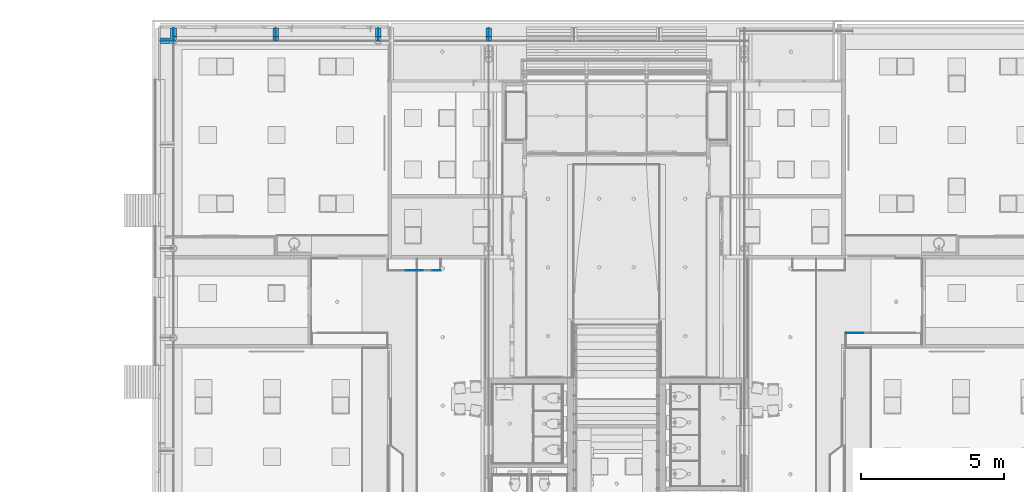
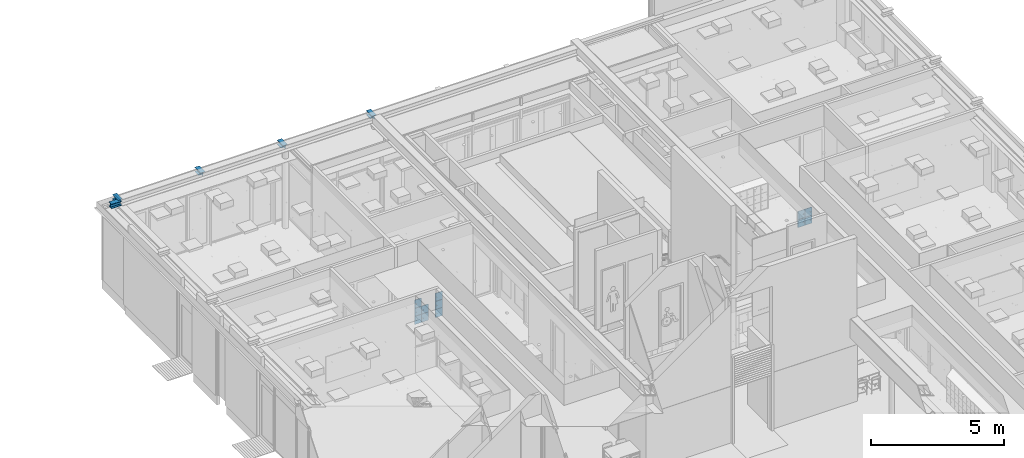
# One storey, part 145 of 347: 27 building element parts, 7 elements without a shape of their own.
"""IFC2X3 building model written with IfcOpenShell, lengths in millimetres."""

from ifc_helpers import new_model, entity, si_unit, converted_unit, derived_unit, money_unit, direction, frame, origin_with_axes, place, context, subcontext, project, spatial, faceted_brep, material, type_object, element, aggregate, save


model = new_model("IFC2X3")

# Units and contexts
model_context = context("Model", 3, precision=0.01, world=origin_with_axes(), true_north=direction((0.0, 1.0)))
plan_context = context("Plan", 3, precision=0.01, world=origin_with_axes(), true_north=direction((0.0, 1.0)))
body_context = subcontext(model_context, "Body", "Model", "MODEL_VIEW")
ifc_project = project(units=[si_unit("LENGTHUNIT", "METRE", prefix="MILLI"), si_unit("AREAUNIT", "SQUARE_METRE"), si_unit("VOLUMEUNIT", "CUBIC_METRE"), converted_unit("PLANEANGLEUNIT", "DEGREE", entity("IfcPlaneAngleMeasure", 0.0174532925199), si_unit("PLANEANGLEUNIT", "RADIAN"), dimensions=[0, 0, 0, 0, 0, 0, 0]), money_unit("EUR"), converted_unit("TIMEUNIT", "Year", entity("IfcTimeMeasure", 31556926.0), si_unit("TIMEUNIT", "SECOND"), dimensions=[0, 0, 1, 0, 0, 0, 0]), si_unit("MASSUNIT", "GRAM", prefix="KILO"), si_unit("THERMODYNAMICTEMPERATUREUNIT", "DEGREE_CELSIUS"), si_unit("LUMINOUSINTENSITYUNIT", "LUMEN"), si_unit("ENERGYUNIT", "JOULE", prefix="MEGA"), derived_unit("THERMALCONDUCTANCEUNIT", [(si_unit("POWERUNIT", "WATT"), 1), (si_unit("LENGTHUNIT", "METRE"), -1), (si_unit("THERMODYNAMICTEMPERATUREUNIT", "KELVIN"), -1)]), derived_unit("SPECIFICHEATCAPACITYUNIT", [(si_unit("ENERGYUNIT", "JOULE"), 1), (si_unit("MASSUNIT", "GRAM", prefix="KILO"), -1), (si_unit("THERMODYNAMICTEMPERATUREUNIT", "KELVIN"), -1)]), derived_unit("MASSDENSITYUNIT", [(si_unit("MASSUNIT", "GRAM", prefix="KILO"), 1), (si_unit("VOLUMEUNIT", "CUBIC_METRE"), -1)])], contexts=[model_context, plan_context])

# Site, building, storey
site_placement = place(None, origin_with_axes())
site = spatial("IfcSite", under=ifc_project, at=site_placement, Name="Site", CompositionType="ELEMENT")
building_placement = place(site_placement, origin_with_axes())
building = spatial("IfcBuilding", under=site, at=building_placement, Name="Naam gebouw", CompositionType="ELEMENT")
storey_placement = place(building_placement, origin_with_axes())
storey = spatial("IfcBuildingStorey", under=building, at=storey_placement, Name="begane grond", CompositionType="ELEMENT", Elevation=0.0)

# Beam, building element parts
beam_type_1 = type_object("IfcBeamType", Name="28 HEB200 200 x 200", PredefinedType="BEAM")
beam_1_placement = place(storey_placement, frame((24575.0, 46586.9999775, 3560.0), z_axis=(0.0, 0.0, 1.0), x_axis=(0.0, 1.0, 0.0)))
beam_1 = element("IfcBeam", 1, at=beam_1_placement, inside=storey, type_object=beam_type_1, Name="28_Balk-x", ObjectType="BEAM")
ifc_material_1 = material(Name="Metaal - Staal C")
building_element_part_1_placement = place(beam_1_placement, origin_with_axes())
building_element_part_1 = element("IfcBuildingElementPart", 2, at=building_element_part_1_placement, material=ifc_material_1, Name="Metaal - Staal C", context=body_context, shape_type="Brep", body=[
    faceted_brep([(-5.49997749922, 0.0, 185.0), (-5.49997749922, 0.0, 200.0), (-100.0, 0.0, 200.0), (-100.0, 0.0, 185.0), (-5.49997898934, 99.9999999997, 200.0), (-5.49997898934, 99.9999999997, 185.0), (100.0, 99.9999999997, 200.0), (100.0, 450.0, 200.0), (-100.0, 450.0, 200.0), (-100.0, 450.0, 185.0), (-4.5, 450.0, 185.0), (-4.5, 99.9999999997, 185.0), (100.0, 99.9999999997, 185.0), (4.5, 99.9999999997, 185.0), (100.0, 450.0, 185.0), (4.5, 450.0, 185.0)], [[[0, 1, 2, 3]], [[4, 1, 0, 5]], [[4, 6, 7, 8, 2, 1]], [[2, 8, 9, 3]], [[5, 0, 3, 9, 10, 11]], [[12, 6, 4, 5, 11, 13]], [[6, 12, 14, 7]], [[10, 9, 8, 7, 14, 15]], [[13, 11, 10, 15]], [[12, 13, 15, 14]]]),
])
building_element_part_2_placement = place(beam_1_placement, origin_with_axes())
building_element_part_2 = element("IfcBuildingElementPart", 3, at=building_element_part_2_placement, material=ifc_material_1, Name="Metaal - Staal C", context=body_context, shape_type="Brep", body=[
    faceted_brep([(4.5, 99.9999999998, 15.0), (100.0, 99.9999999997, 15.0), (100.0, 450.0, 15.0), (4.5, 450.0, 15.0), (100.0, 99.9999999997, 0.0), (-4.5, 99.9999999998, 15.0), (-100.0, 99.9999999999, 15.0), (-100.0, 99.9999999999, 0.0), (100.0, 450.0, 0.0), (-100.0, 450.0, 0.0), (-100.0, 450.0, 15.0), (-4.5, 450.0, 15.0)], [[[0, 1, 2, 3]], [[4, 1, 0, 5, 6, 7]], [[1, 4, 8, 2]], [[9, 10, 11, 3, 2, 8]], [[5, 0, 3, 11]], [[6, 5, 11, 10]], [[7, 6, 10, 9]], [[4, 7, 9, 8]]]),
])
building_element_part_3_placement = place(beam_1_placement, origin_with_axes())
building_element_part_3 = element("IfcBuildingElementPart", 4, at=building_element_part_3_placement, material=ifc_material_1, Name="Metaal - Staal C", context=body_context, shape_type="Brep", body=[
    faceted_brep([(-4.5, 4.50000000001, 185.0), (4.5, 4.5, 185.0), (4.5, 450.0, 185.0), (-4.5, 450.0, 185.0), (4.5, 4.5, 15.0), (-4.5, 4.50000000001, 15.0), (4.5, 450.0, 15.0), (-4.5, 450.0, 15.0)], [[[0, 1, 2, 3]], [[4, 1, 0, 5]], [[1, 4, 6, 2]], [[6, 7, 3, 2]], [[5, 0, 3, 7]], [[4, 5, 7, 6]]]),
])
aggregate(beam_1, [building_element_part_1, building_element_part_2, building_element_part_3])

beam_type_2 = type_object("IfcBeamType", Name="VI Garderobe 05 2412 x 1122", PredefinedType="BEAM")
beam_2_placement = place(storey_placement, frame((50519.0, 36380.5000133, 0.0), z_axis=(0.0, 0.0, 1.0), x_axis=(-1.0, 0.0, 0.0)))
beam_2 = element("IfcBeam", 5, at=beam_2_placement, inside=storey, type_object=beam_type_2, Name="28_Balk-x", ObjectType="BEAM")
ifc_material_2 = material(Name="Hout - Lockers")
building_element_part_4_placement = place(beam_2_placement, origin_with_axes())
building_element_part_4 = element("IfcBuildingElementPart", 6, at=building_element_part_4_placement, material=ifc_material_2, Name="Hout - Lockers", context=body_context, shape_type="Brep", body=[
    faceted_brep([(2109.0, 18.0, 1175.0), (2109.0, 18.0, 802.0), (2109.0, 0.0, 802.0), (2109.0, 0.0, 1175.0), (2412.0, 18.0, 1175.0), (2412.0, 18.0, 802.0), (2187.0, 18.0, 975.0), (2183.5623059, 18.0, 985.580134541), (2174.5623059, 18.0, 992.119017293), (2163.4376941, 18.0, 992.119017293), (2154.4376941, 18.0, 985.580134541), (2151.0, 18.0, 975.0), (2154.4376941, 18.0, 964.419865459), (2163.4376941, 18.0, 957.880982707), (2174.5623059, 18.0, 957.880982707), (2183.5623059, 18.0, 964.419865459), (2412.0, 0.0, 802.0), (2412.0, 0.0, 1175.0), (2187.0, 0.0, 975.0), (2183.5623059, 0.0, 964.419865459), (2174.5623059, 0.0, 957.880982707), (2163.4376941, 0.0, 957.880982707), (2154.4376941, 0.0, 964.419865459), (2151.0, 0.0, 975.0), (2154.4376941, 0.0, 985.580134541), (2163.4376941, 0.0, 992.119017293), (2174.5623059, 0.0, 992.119017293), (2183.5623059, 0.0, 985.580134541)], [[[0, 1, 2, 3]], [[0, 4, 5, 1], [6, 7, 8, 9, 10, 11, 12, 13, 14, 15]], [[1, 5, 16, 2]], [[3, 2, 16, 17], [18, 19, 20, 21, 22, 23, 24, 25, 26, 27]], [[4, 0, 3, 17]], [[5, 4, 17, 16]], [[7, 6, 18, 27]], [[8, 7, 27, 26]], [[9, 8, 26, 25]], [[10, 9, 25, 24]], [[11, 10, 24, 23]], [[12, 11, 23, 22]], [[13, 12, 22, 21]], [[14, 13, 21, 20]], [[15, 14, 20, 19]], [[6, 15, 19, 18]]]),
])
building_element_part_5_placement = place(beam_2_placement, origin_with_axes())
building_element_part_5 = element("IfcBuildingElementPart", 7, at=building_element_part_5_placement, material=ifc_material_2, Name="Hout - Lockers", context=body_context, shape_type="Brep", body=[
    faceted_brep([(1809.0, 18.0, 1175.0), (1809.0, 18.0, 802.0), (1809.0, 0.0, 802.0), (1809.0, 0.0, 1175.0), (2103.0, 18.0, 1175.0), (2103.0, 18.0, 802.0), (1887.0, 18.0, 975.0), (1883.5623059, 18.0, 985.580134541), (1874.5623059, 18.0, 992.119017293), (1863.4376941, 18.0, 992.119017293), (1854.4376941, 18.0, 985.580134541), (1851.0, 18.0, 975.0), (1854.4376941, 18.0, 964.419865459), (1863.4376941, 18.0, 957.880982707), (1874.5623059, 18.0, 957.880982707), (1883.5623059, 18.0, 964.419865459), (2103.0, 0.0, 802.0), (2103.0, 0.0, 1175.0), (1887.0, 0.0, 975.0), (1883.5623059, 0.0, 964.419865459), (1874.5623059, 0.0, 957.880982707), (1863.4376941, 0.0, 957.880982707), (1854.4376941, 0.0, 964.419865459), (1851.0, 0.0, 975.0), (1854.4376941, 0.0, 985.580134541), (1863.4376941, 0.0, 992.119017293), (1874.5623059, 0.0, 992.119017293), (1883.5623059, 0.0, 985.580134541)], [[[0, 1, 2, 3]], [[0, 4, 5, 1], [6, 7, 8, 9, 10, 11, 12, 13, 14, 15]], [[1, 5, 16, 2]], [[3, 2, 16, 17], [18, 19, 20, 21, 22, 23, 24, 25, 26, 27]], [[4, 0, 3, 17]], [[5, 4, 17, 16]], [[7, 6, 18, 27]], [[8, 7, 27, 26]], [[9, 8, 26, 25]], [[10, 9, 25, 24]], [[11, 10, 24, 23]], [[12, 11, 23, 22]], [[13, 12, 22, 21]], [[14, 13, 21, 20]], [[15, 14, 20, 19]], [[6, 15, 19, 18]]]),
])
building_element_part_6_placement = place(beam_2_placement, origin_with_axes())
building_element_part_6 = element("IfcBuildingElementPart", 8, at=building_element_part_6_placement, material=ifc_material_2, Name="Hout - Lockers", context=body_context, shape_type="Brep", body=[
    faceted_brep([(2109.0, 18.0, 796.0), (2109.0, 18.0, 432.0), (2109.0, 0.0, 432.0), (2109.0, 0.0, 796.0), (2412.0, 18.0, 796.0), (2412.0, 18.0, 432.0), (2187.0, 18.0, 596.0), (2183.5623059, 18.0, 606.580134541), (2174.5623059, 18.0, 613.119017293), (2163.4376941, 18.0, 613.119017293), (2154.4376941, 18.0, 606.580134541), (2151.0, 18.0, 596.0), (2154.4376941, 18.0, 585.419865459), (2163.4376941, 18.0, 578.880982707), (2174.5623059, 18.0, 578.880982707), (2183.5623059, 18.0, 585.419865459), (2412.0, 0.0, 432.0), (2412.0, 0.0, 796.0), (2187.0, 0.0, 596.0), (2183.5623059, 0.0, 585.419865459), (2174.5623059, 0.0, 578.880982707), (2163.4376941, 0.0, 578.880982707), (2154.4376941, 0.0, 585.419865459), (2151.0, 0.0, 596.0), (2154.4376941, 0.0, 606.580134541), (2163.4376941, 0.0, 613.119017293), (2174.5623059, 0.0, 613.119017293), (2183.5623059, 0.0, 606.580134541)], [[[0, 1, 2, 3]], [[0, 4, 5, 1], [6, 7, 8, 9, 10, 11, 12, 13, 14, 15]], [[1, 5, 16, 2]], [[3, 2, 16, 17], [18, 19, 20, 21, 22, 23, 24, 25, 26, 27]], [[4, 0, 3, 17]], [[5, 4, 17, 16]], [[7, 6, 18, 27]], [[8, 7, 27, 26]], [[9, 8, 26, 25]], [[10, 9, 25, 24]], [[11, 10, 24, 23]], [[12, 11, 23, 22]], [[13, 12, 22, 21]], [[14, 13, 21, 20]], [[15, 14, 20, 19]], [[6, 15, 19, 18]]]),
])
building_element_part_7_placement = place(beam_2_placement, origin_with_axes())
building_element_part_7 = element("IfcBuildingElementPart", 9, at=building_element_part_7_placement, material=ifc_material_2, Name="Hout - Lockers", context=body_context, shape_type="Brep", body=[
    faceted_brep([(1809.0, 18.0, 796.0), (1809.0, 18.0, 432.0), (1809.0, 0.0, 432.0), (1809.0, 0.0, 796.0), (2103.0, 18.0, 796.0), (2103.0, 18.0, 432.0), (1887.0, 18.0, 596.0), (1883.5623059, 18.0, 606.580134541), (1874.5623059, 18.0, 613.119017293), (1863.4376941, 18.0, 613.119017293), (1854.4376941, 18.0, 606.580134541), (1851.0, 18.0, 596.0), (1854.4376941, 18.0, 585.419865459), (1863.4376941, 18.0, 578.880982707), (1874.5623059, 18.0, 578.880982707), (1883.5623059, 18.0, 585.419865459), (2103.0, 0.0, 432.0), (2103.0, 0.0, 796.0), (1887.0, 0.0, 596.0), (1883.5623059, 0.0, 585.419865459), (1874.5623059, 0.0, 578.880982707), (1863.4376941, 0.0, 578.880982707), (1854.4376941, 0.0, 585.419865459), (1851.0, 0.0, 596.0), (1854.4376941, 0.0, 606.580134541), (1863.4376941, 0.0, 613.119017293), (1874.5623059, 0.0, 613.119017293), (1883.5623059, 0.0, 606.580134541)], [[[0, 1, 2, 3]], [[0, 4, 5, 1], [6, 7, 8, 9, 10, 11, 12, 13, 14, 15]], [[1, 5, 16, 2]], [[3, 2, 16, 17], [18, 19, 20, 21, 22, 23, 24, 25, 26, 27]], [[4, 0, 3, 17]], [[5, 4, 17, 16]], [[7, 6, 18, 27]], [[8, 7, 27, 26]], [[9, 8, 26, 25]], [[10, 9, 25, 24]], [[11, 10, 24, 23]], [[12, 11, 23, 22]], [[13, 12, 22, 21]], [[14, 13, 21, 20]], [[15, 14, 20, 19]], [[6, 15, 19, 18]]]),
])
aggregate(beam_2, [building_element_part_4, building_element_part_5, building_element_part_6, building_element_part_7])

beam_type_3 = type_object("IfcBeamType", Name="VI Garderobe 06 1812 x 1122", PredefinedType="BEAM")
beam_3_placement = place(storey_placement, frame((32075.0, 38537.5, 0.0), z_axis=(0.0, 0.0, 1.0), x_axis=(1.0, 0.0, 0.0)))
beam_3 = element("IfcBeam", 10, at=beam_3_placement, inside=storey, type_object=beam_type_3, Name="28_Balk-x", ObjectType="BEAM")
building_element_part_8_placement = place(beam_3_placement, origin_with_axes())
building_element_part_8 = element("IfcBuildingElementPart", 11, at=building_element_part_8_placement, material=ifc_material_2, Name="Hout - Lockers", context=body_context, shape_type="Brep", body=[
    faceted_brep([(1534.0, 18.0, 1175.0), (1534.0, 18.0, 802.0), (1534.0, 0.0, 802.0), (1534.0, 0.0, 1175.0), (1837.0, 18.0, 1175.0), (1837.0, 18.0, 802.0), (1612.0, 18.0, 975.0), (1608.5623059, 18.0, 985.580134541), (1599.5623059, 18.0, 992.119017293), (1588.4376941, 18.0, 992.119017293), (1579.4376941, 18.0, 985.580134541), (1576.0, 18.0, 975.0), (1579.4376941, 18.0, 964.419865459), (1588.4376941, 18.0, 957.880982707), (1599.5623059, 18.0, 957.880982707), (1608.5623059, 18.0, 964.419865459), (1837.0, 0.0, 802.0), (1837.0, 0.0, 1175.0), (1612.0, 0.0, 975.0), (1608.5623059, 0.0, 964.419865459), (1599.5623059, 0.0, 957.880982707), (1588.4376941, 0.0, 957.880982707), (1579.4376941, 0.0, 964.419865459), (1576.0, 0.0, 975.0), (1579.4376941, 0.0, 985.580134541), (1588.4376941, 0.0, 992.119017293), (1599.5623059, 0.0, 992.119017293), (1608.5623059, 0.0, 985.580134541)], [[[0, 1, 2, 3]], [[0, 4, 5, 1], [6, 7, 8, 9, 10, 11, 12, 13, 14, 15]], [[1, 5, 16, 2]], [[3, 2, 16, 17], [18, 19, 20, 21, 22, 23, 24, 25, 26, 27]], [[4, 0, 3, 17]], [[5, 4, 17, 16]], [[7, 6, 18, 27]], [[8, 7, 27, 26]], [[9, 8, 26, 25]], [[10, 9, 25, 24]], [[11, 10, 24, 23]], [[12, 11, 23, 22]], [[13, 12, 22, 21]], [[14, 13, 21, 20]], [[15, 14, 20, 19]], [[6, 15, 19, 18]]]),
])
building_element_part_9_placement = place(beam_3_placement, origin_with_axes())
building_element_part_9 = element("IfcBuildingElementPart", 12, at=building_element_part_9_placement, material=ifc_material_2, Name="Hout - Lockers", context=body_context, shape_type="Brep", body=[
    faceted_brep([(1534.0, 18.0, 796.0), (1534.0, 18.0, 432.0), (1534.0, 0.0, 432.0), (1534.0, 0.0, 796.0), (1837.0, 18.0, 796.0), (1837.0, 18.0, 432.0), (1612.0, 18.0, 596.0), (1608.5623059, 18.0, 606.580134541), (1599.5623059, 18.0, 613.119017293), (1588.4376941, 18.0, 613.119017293), (1579.4376941, 18.0, 606.580134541), (1576.0, 18.0, 596.0), (1579.4376941, 18.0, 585.419865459), (1588.4376941, 18.0, 578.880982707), (1599.5623059, 18.0, 578.880982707), (1608.5623059, 18.0, 585.419865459), (1837.0, 0.0, 432.0), (1837.0, 0.0, 796.0), (1612.0, 0.0, 596.0), (1608.5623059, 0.0, 585.419865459), (1599.5623059, 0.0, 578.880982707), (1588.4376941, 0.0, 578.880982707), (1579.4376941, 0.0, 585.419865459), (1576.0, 0.0, 596.0), (1579.4376941, 0.0, 606.580134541), (1588.4376941, 0.0, 613.119017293), (1599.5623059, 0.0, 613.119017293), (1608.5623059, 0.0, 606.580134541)], [[[0, 1, 2, 3]], [[0, 4, 5, 1], [6, 7, 8, 9, 10, 11, 12, 13, 14, 15]], [[1, 5, 16, 2]], [[3, 2, 16, 17], [18, 19, 20, 21, 22, 23, 24, 25, 26, 27]], [[4, 0, 3, 17]], [[5, 4, 17, 16]], [[7, 6, 18, 27]], [[8, 7, 27, 26]], [[9, 8, 26, 25]], [[10, 9, 25, 24]], [[11, 10, 24, 23]], [[12, 11, 23, 22]], [[13, 12, 22, 21]], [[14, 13, 21, 20]], [[15, 14, 20, 19]], [[6, 15, 19, 18]]]),
])
building_element_part_10_placement = place(beam_3_placement, origin_with_axes())
building_element_part_10 = element("IfcBuildingElementPart", 13, at=building_element_part_10_placement, material=ifc_material_2, Name="Hout - Lockers", context=body_context, shape_type="Brep", body=[
    faceted_brep([(1534.0, 18.0, 426.0), (1534.0, 18.0, 53.0), (1534.0, 0.0, 53.0), (1534.0, 0.0, 426.0), (1837.0, 18.0, 426.0), (1837.0, 18.0, 53.0), (1610.5992825, 18.0, 226.009810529), (1607.1615884, 18.0, 236.58994507), (1598.1615884, 18.0, 243.128827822), (1587.0369766, 18.0, 243.128827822), (1578.0369766, 18.0, 236.58994507), (1574.5992825, 18.0, 226.009810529), (1578.0369766, 18.0, 215.429675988), (1587.0369766, 18.0, 208.890793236), (1598.1615884, 18.0, 208.890793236), (1607.1615884, 18.0, 215.429675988), (1837.0, 0.0, 53.0), (1837.0, 0.0, 426.0), (1610.5992825, 0.0, 226.009810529), (1607.1615884, 0.0, 215.429675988), (1598.1615884, 0.0, 208.890793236), (1587.0369766, 0.0, 208.890793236), (1578.0369766, 0.0, 215.429675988), (1574.5992825, 0.0, 226.009810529), (1578.0369766, 0.0, 236.58994507), (1587.0369766, 0.0, 243.128827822), (1598.1615884, 0.0, 243.128827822), (1607.1615884, 0.0, 236.58994507)], [[[0, 1, 2, 3]], [[0, 4, 5, 1], [6, 7, 8, 9, 10, 11, 12, 13, 14, 15]], [[1, 5, 16, 2]], [[3, 2, 16, 17], [18, 19, 20, 21, 22, 23, 24, 25, 26, 27]], [[4, 0, 3, 17]], [[5, 4, 17, 16]], [[7, 6, 18, 27]], [[8, 7, 27, 26]], [[9, 8, 26, 25]], [[10, 9, 25, 24]], [[11, 10, 24, 23]], [[12, 11, 23, 22]], [[13, 12, 22, 21]], [[14, 13, 21, 20]], [[15, 14, 20, 19]], [[6, 15, 19, 18]]]),
])
building_element_part_11_placement = place(beam_3_placement, origin_with_axes())
building_element_part_11 = element("IfcBuildingElementPart", 14, at=building_element_part_11_placement, material=ifc_material_2, Name="Hout - Lockers", context=body_context, shape_type="Brep", body=[
    faceted_brep([(934.0, 18.0, 796.0), (934.0, 18.0, 432.0), (934.0, 0.0, 432.0), (934.0, 0.0, 796.0), (1228.0, 18.0, 796.0), (1228.0, 18.0, 432.0), (1012.0, 18.0, 596.0), (1008.5623059, 18.0, 606.580134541), (999.562305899, 18.0, 613.119017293), (988.437694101, 18.0, 613.119017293), (979.437694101, 18.0, 606.580134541), (976.0, 18.0, 596.0), (979.437694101, 18.0, 585.419865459), (988.437694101, 18.0, 578.880982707), (999.562305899, 18.0, 578.880982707), (1008.5623059, 18.0, 585.419865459), (1228.0, 0.0, 432.0), (1228.0, 0.0, 796.0), (1012.0, 0.0, 596.0), (1008.5623059, 0.0, 585.419865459), (999.562305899, 0.0, 578.880982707), (988.437694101, 0.0, 578.880982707), (979.437694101, 0.0, 585.419865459), (976.0, 0.0, 596.0), (979.437694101, 0.0, 606.580134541), (988.437694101, 0.0, 613.119017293), (999.562305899, 0.0, 613.119017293), (1008.5623059, 0.0, 606.580134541)], [[[0, 1, 2, 3]], [[0, 4, 5, 1], [6, 7, 8, 9, 10, 11, 12, 13, 14, 15]], [[1, 5, 16, 2]], [[3, 2, 16, 17], [18, 19, 20, 21, 22, 23, 24, 25, 26, 27]], [[4, 0, 3, 17]], [[5, 4, 17, 16]], [[7, 6, 18, 27]], [[8, 7, 27, 26]], [[9, 8, 26, 25]], [[10, 9, 25, 24]], [[11, 10, 24, 23]], [[12, 11, 23, 22]], [[13, 12, 22, 21]], [[14, 13, 21, 20]], [[15, 14, 20, 19]], [[6, 15, 19, 18]]]),
])
building_element_part_12_placement = place(beam_3_placement, origin_with_axes())
building_element_part_12 = element("IfcBuildingElementPart", 15, at=building_element_part_12_placement, material=ifc_material_2, Name="Hout - Lockers", context=body_context, shape_type="Brep", body=[
    faceted_brep([(934.0, 18.0, 426.0), (934.0, 18.0, 53.0), (934.0, 0.0, 53.0), (934.0, 0.0, 426.0), (1228.0, 18.0, 426.0), (1228.0, 18.0, 53.0), (1012.0, 18.0, 226.0), (1008.5623059, 18.0, 236.580134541), (999.562305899, 18.0, 243.119017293), (988.437694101, 18.0, 243.119017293), (979.437694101, 18.0, 236.580134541), (976.0, 18.0, 226.0), (979.437694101, 18.0, 215.419865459), (988.437694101, 18.0, 208.880982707), (999.562305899, 18.0, 208.880982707), (1008.5623059, 18.0, 215.419865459), (1228.0, 0.0, 53.0), (1228.0, 0.0, 426.0), (1012.0, 0.0, 226.0), (1008.5623059, 0.0, 215.419865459), (999.562305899, 0.0, 208.880982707), (988.437694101, 0.0, 208.880982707), (979.437694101, 0.0, 215.419865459), (976.0, 0.0, 226.0), (979.437694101, 0.0, 236.580134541), (988.437694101, 0.0, 243.119017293), (999.562305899, 0.0, 243.119017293), (1008.5623059, 0.0, 236.580134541)], [[[0, 1, 2, 3]], [[0, 4, 5, 1], [6, 7, 8, 9, 10, 11, 12, 13, 14, 15]], [[1, 5, 16, 2]], [[3, 2, 16, 17], [18, 19, 20, 21, 22, 23, 24, 25, 26, 27]], [[4, 0, 3, 17]], [[5, 4, 17, 16]], [[7, 6, 18, 27]], [[8, 7, 27, 26]], [[9, 8, 26, 25]], [[10, 9, 25, 24]], [[11, 10, 24, 23]], [[12, 11, 23, 22]], [[13, 12, 22, 21]], [[14, 13, 21, 20]], [[15, 14, 20, 19]], [[6, 15, 19, 18]]]),
])
building_element_part_13_placement = place(beam_3_placement, origin_with_axes())
building_element_part_13 = element("IfcBuildingElementPart", 16, at=building_element_part_13_placement, material=ifc_material_2, Name="Hout - Lockers", context=body_context, shape_type="Brep", body=[
    faceted_brep([(634.0, 18.0, 1175.0), (634.0, 18.0, 802.0), (634.0, 0.0, 802.0), (634.0, 0.0, 1175.0), (928.0, 18.0, 1175.0), (928.0, 18.0, 802.0), (712.0, 18.0, 975.0), (708.562305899, 18.0, 985.580134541), (699.562305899, 18.0, 992.119017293), (688.437694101, 18.0, 992.119017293), (679.437694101, 18.0, 985.580134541), (676.0, 18.0, 975.0), (679.437694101, 18.0, 964.419865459), (688.437694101, 18.0, 957.880982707), (699.562305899, 18.0, 957.880982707), (708.562305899, 18.0, 964.419865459), (928.0, 0.0, 802.0), (928.0, 0.0, 1175.0), (712.0, 0.0, 975.0), (708.562305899, 0.0, 964.419865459), (699.562305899, 0.0, 957.880982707), (688.437694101, 0.0, 957.880982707), (679.437694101, 0.0, 964.419865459), (676.0, 0.0, 975.0), (679.437694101, 0.0, 985.580134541), (688.437694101, 0.0, 992.119017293), (699.562305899, 0.0, 992.119017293), (708.562305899, 0.0, 985.580134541)], [[[0, 1, 2, 3]], [[0, 4, 5, 1], [6, 7, 8, 9, 10, 11, 12, 13, 14, 15]], [[1, 5, 16, 2]], [[3, 2, 16, 17], [18, 19, 20, 21, 22, 23, 24, 25, 26, 27]], [[4, 0, 3, 17]], [[5, 4, 17, 16]], [[7, 6, 18, 27]], [[8, 7, 27, 26]], [[9, 8, 26, 25]], [[10, 9, 25, 24]], [[11, 10, 24, 23]], [[12, 11, 23, 22]], [[13, 12, 22, 21]], [[14, 13, 21, 20]], [[15, 14, 20, 19]], [[6, 15, 19, 18]]]),
])
building_element_part_14_placement = place(beam_3_placement, origin_with_axes())
building_element_part_14 = element("IfcBuildingElementPart", 17, at=building_element_part_14_placement, material=ifc_material_2, Name="Hout - Lockers", context=body_context, shape_type="Brep", body=[
    faceted_brep([(634.0, 18.0, 796.0), (634.0, 18.0, 432.0), (634.0, 0.0, 432.0), (634.0, 0.0, 796.0), (928.0, 18.0, 796.0), (928.0, 18.0, 432.0), (712.0, 18.0, 596.0), (708.562305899, 18.0, 606.580134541), (699.562305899, 18.0, 613.119017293), (688.437694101, 18.0, 613.119017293), (679.437694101, 18.0, 606.580134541), (676.0, 18.0, 596.0), (679.437694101, 18.0, 585.419865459), (688.437694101, 18.0, 578.880982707), (699.562305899, 18.0, 578.880982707), (708.562305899, 18.0, 585.419865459), (928.0, 0.0, 432.0), (928.0, 0.0, 796.0), (712.0, 0.0, 596.0), (708.562305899, 0.0, 585.419865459), (699.562305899, 0.0, 578.880982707), (688.437694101, 0.0, 578.880982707), (679.437694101, 0.0, 585.419865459), (676.0, 0.0, 596.0), (679.437694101, 0.0, 606.580134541), (688.437694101, 0.0, 613.119017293), (699.562305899, 0.0, 613.119017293), (708.562305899, 0.0, 606.580134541)], [[[0, 1, 2, 3]], [[0, 4, 5, 1], [6, 7, 8, 9, 10, 11, 12, 13, 14, 15]], [[1, 5, 16, 2]], [[3, 2, 16, 17], [18, 19, 20, 21, 22, 23, 24, 25, 26, 27]], [[4, 0, 3, 17]], [[5, 4, 17, 16]], [[7, 6, 18, 27]], [[8, 7, 27, 26]], [[9, 8, 26, 25]], [[10, 9, 25, 24]], [[11, 10, 24, 23]], [[12, 11, 23, 22]], [[13, 12, 22, 21]], [[14, 13, 21, 20]], [[15, 14, 20, 19]], [[6, 15, 19, 18]]]),
])
building_element_part_15_placement = place(beam_3_placement, origin_with_axes())
building_element_part_15 = element("IfcBuildingElementPart", 18, at=building_element_part_15_placement, material=ifc_material_2, Name="Hout - Lockers", context=body_context, shape_type="Brep", body=[
    faceted_brep([(634.0, 18.0, 426.0), (634.0, 18.0, 53.0), (634.0, 0.0, 53.0), (634.0, 0.0, 426.0), (928.0, 18.0, 426.0), (928.0, 18.0, 53.0), (712.0, 18.0, 226.0), (708.562305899, 18.0, 236.580134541), (699.562305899, 18.0, 243.119017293), (688.437694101, 18.0, 243.119017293), (679.437694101, 18.0, 236.580134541), (676.0, 18.0, 226.0), (679.437694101, 18.0, 215.419865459), (688.437694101, 18.0, 208.880982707), (699.562305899, 18.0, 208.880982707), (708.562305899, 18.0, 215.419865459), (928.0, 0.0, 53.0), (928.0, 0.0, 426.0), (712.0, 0.0, 226.0), (708.562305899, 0.0, 215.419865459), (699.562305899, 0.0, 208.880982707), (688.437694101, 0.0, 208.880982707), (679.437694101, 0.0, 215.419865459), (676.0, 0.0, 226.0), (679.437694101, 0.0, 236.580134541), (688.437694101, 0.0, 243.119017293), (699.562305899, 0.0, 243.119017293), (708.562305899, 0.0, 236.580134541)], [[[0, 1, 2, 3]], [[0, 4, 5, 1], [6, 7, 8, 9, 10, 11, 12, 13, 14, 15]], [[1, 5, 16, 2]], [[3, 2, 16, 17], [18, 19, 20, 21, 22, 23, 24, 25, 26, 27]], [[4, 0, 3, 17]], [[5, 4, 17, 16]], [[7, 6, 18, 27]], [[8, 7, 27, 26]], [[9, 8, 26, 25]], [[10, 9, 25, 24]], [[11, 10, 24, 23]], [[12, 11, 23, 22]], [[13, 12, 22, 21]], [[14, 13, 21, 20]], [[15, 14, 20, 19]], [[6, 15, 19, 18]]]),
])
aggregate(beam_3, [building_element_part_8, building_element_part_9, building_element_part_10, building_element_part_11, building_element_part_12, building_element_part_13, building_element_part_14, building_element_part_15])

beam_4_placement = place(storey_placement, frame((24575.0, 46587.0, 3560.0), z_axis=(0.0, 0.0, 1.0), x_axis=(1.0, 0.0, 0.0)))
beam_4 = element("IfcBeam", 19, at=beam_4_placement, inside=storey, type_object=beam_type_1, Name="28_Balk-x", ObjectType="BEAM")
building_element_part_16_placement = place(beam_4_placement, origin_with_axes())
building_element_part_16 = element("IfcBuildingElementPart", 20, at=building_element_part_16_placement, material=ifc_material_1, Name="Metaal - Staal C", context=body_context, shape_type="Brep", body=[
    faceted_brep([(0.0, -5.5, 200.0), (0.0, 5.5, 200.0), (100.0, 5.50000000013, 200.0), (100.0, 450.0, 200.0), (-100.0, 450.0, 200.0), (-99.9999999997, -5.50000149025, 200.0), (0.0, -5.5, 185.0), (0.0, 5.5, 185.0), (100.0, 5.50000000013, 185.0), (4.5, 5.5, 185.0), (100.0, 450.0, 185.0), (4.5, 450.0, 185.0), (-4.5, 450.0, 185.0), (-100.0, 450.0, 185.0), (-99.9999999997, -5.50000149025, 185.0), (-4.5, -5.50000149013, 185.0)], [[[0, 1, 2, 3, 4, 5]], [[1, 0, 6, 7]], [[8, 2, 1, 7, 9]], [[2, 8, 10, 3]], [[11, 12, 13, 4, 3, 10]], [[13, 14, 5, 4]], [[6, 0, 5, 14, 15]], [[7, 6, 15, 12, 11, 9]], [[8, 9, 11, 10]], [[12, 15, 14, 13]]]),
])
building_element_part_17_placement = place(beam_4_placement, origin_with_axes())
building_element_part_17 = element("IfcBuildingElementPart", 21, at=building_element_part_17_placement, material=ifc_material_1, Name="Metaal - Staal C", context=body_context, shape_type="Brep", body=[
    faceted_brep([(4.5, 150.0, 15.0), (100.0, 150.0, 15.0), (100.0, 450.0, 15.0), (4.5, 450.0, 15.0), (100.0, 150.0, 0.0), (-1.98951966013e-10, 150.0, 15.0), (-1.98951966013e-10, 150.0, 0.0), (100.0, 450.0, 0.0), (-100.0, 450.0, 0.0), (-100.0, 450.0, 15.0), (-4.5, 450.0, 15.0), (-4.5, -100.000022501, 15.0), (1.35003119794e-10, -100.000022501, 15.0), (1.35003119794e-10, -100.000022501, 0.0), (-99.9999999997, -100.000022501, 0.0), (-99.9999999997, -100.000022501, 15.0)], [[[0, 1, 2, 3]], [[4, 1, 0, 5, 6]], [[1, 4, 7, 2]], [[7, 8, 9, 10, 3, 2]], [[5, 0, 3, 10, 11, 12]], [[5, 12, 13, 6]], [[6, 13, 14, 8, 7, 4]], [[8, 14, 15, 9]], [[9, 15, 11, 10]], [[13, 12, 11, 15, 14]]]),
])
building_element_part_18_placement = place(beam_4_placement, origin_with_axes())
building_element_part_18 = element("IfcBuildingElementPart", 22, at=building_element_part_18_placement, material=ifc_material_1, Name="Metaal - Staal C", context=body_context, shape_type="Brep", body=[
    faceted_brep([(4.5, 5.5, 185.0), (4.5, 5.5, 19.0), (4.5, 150.0, 19.0), (4.5, 150.0, 15.0), (4.5, 450.0, 15.0), (4.5, 450.0, 185.0), (0.0, 5.5, 185.0), (0.0, 5.5, 19.0), (-1.98951966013e-10, 150.0, 19.0), (-1.98951966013e-10, 150.0, 15.0), (0.0, -4.50002250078, 15.0), (-4.5, -4.50002250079, 15.0), (-4.5, 450.0, 15.0), (-4.5, 450.0, 185.0), (-4.5, -4.50002250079, 185.0), (0.0, -4.50002250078, 185.0)], [[[0, 1, 2, 3, 4, 5]], [[1, 0, 6, 7]], [[2, 1, 7, 8]], [[3, 2, 8, 9]], [[9, 10, 11, 12, 4, 3]], [[5, 4, 12, 13]], [[6, 0, 5, 13, 14, 15]], [[10, 9, 8, 7, 6, 15]], [[10, 15, 14, 11]], [[12, 11, 14, 13]]]),
])
aggregate(beam_4, [building_element_part_16, building_element_part_17, building_element_part_18])

beam_5_placement = place(storey_placement, frame((28155.0, 46587.0, 3560.0), z_axis=(0.0, 0.0, 1.0), x_axis=(1.0, 0.0, 0.0)))
beam_5 = element("IfcBeam", 23, at=beam_5_placement, inside=storey, type_object=beam_type_1, Name="28_Balk-x", ObjectType="BEAM")
building_element_part_19_placement = place(beam_5_placement, origin_with_axes())
building_element_part_19 = element("IfcBuildingElementPart", 24, at=building_element_part_19_placement, material=ifc_material_1, Name="Metaal - Staal C", context=body_context, shape_type="Brep", body=[
    faceted_brep([(-100.0, 5.49999999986, 200.0), (100.0, 5.50000000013, 200.0), (100.0, 450.0, 200.0), (-100.0, 450.0, 200.0), (100.0, 5.50000000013, 185.0), (-100.0, 5.49999999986, 185.0), (-4.5, 5.49999999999, 185.0), (4.5, 5.5, 185.0), (100.0, 450.0, 185.0), (4.5, 450.0, 185.0), (-4.5, 450.0, 185.0), (-100.0, 450.0, 185.0)], [[[0, 1, 2, 3]], [[4, 1, 0, 5, 6, 7]], [[1, 4, 8, 2]], [[9, 10, 11, 3, 2, 8]], [[5, 0, 3, 11]], [[6, 5, 11, 10]], [[7, 6, 10, 9]], [[4, 7, 9, 8]]]),
])
building_element_part_20_placement = place(beam_5_placement, origin_with_axes())
building_element_part_20 = element("IfcBuildingElementPart", 25, at=building_element_part_20_placement, material=ifc_material_1, Name="Metaal - Staal C", context=body_context, shape_type="Brep", body=[
    faceted_brep([(4.5, 150.0, 15.0), (100.0, 150.0, 15.0), (100.0, 450.0, 15.0), (4.5, 450.0, 15.0), (100.0, 150.0, 0.0), (-4.5, 150.0, 15.0), (-100.0, 150.0, 15.0), (-100.0, 150.0, 0.0), (100.0, 450.0, 0.0), (-100.0, 450.0, 0.0), (-100.0, 450.0, 15.0), (-4.5, 450.0, 15.0)], [[[0, 1, 2, 3]], [[4, 1, 0, 5, 6, 7]], [[1, 4, 8, 2]], [[8, 9, 10, 11, 3, 2]], [[5, 0, 3, 11]], [[6, 5, 11, 10]], [[7, 6, 10, 9]], [[4, 7, 9, 8]]]),
])
building_element_part_21_placement = place(beam_5_placement, origin_with_axes())
building_element_part_21 = element("IfcBuildingElementPart", 26, at=building_element_part_21_placement, material=ifc_material_1, Name="Metaal - Staal C", context=body_context, shape_type="Brep", body=[
    faceted_brep([(4.5, 5.5, 185.0), (4.5, 5.5, 19.0), (4.5, 150.0, 19.0), (4.5, 150.0, 15.0), (4.5, 450.0, 15.0), (4.5, 450.0, 185.0), (-4.5, 5.49999999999, 185.0), (-4.5, 5.49999999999, 19.0), (-4.5, 150.0, 19.0), (-4.5, 150.0, 15.0), (-4.5, 450.0, 15.0), (-4.5, 450.0, 185.0)], [[[0, 1, 2, 3, 4, 5]], [[1, 0, 6, 7]], [[2, 1, 7, 8]], [[3, 2, 8, 9]], [[3, 9, 10, 4]], [[5, 4, 10, 11]], [[6, 0, 5, 11]], [[7, 6, 11, 10, 9, 8]]]),
])
aggregate(beam_5, [building_element_part_19, building_element_part_20, building_element_part_21])

beam_6_placement = place(storey_placement, frame((31737.5, 46587.0, 3560.0), z_axis=(0.0, 0.0, 1.0), x_axis=(1.0, 0.0, 0.0)))
beam_6 = element("IfcBeam", 27, at=beam_6_placement, inside=storey, type_object=beam_type_1, Name="28_Balk-x", ObjectType="BEAM")
building_element_part_22_placement = place(beam_6_placement, origin_with_axes())
building_element_part_22 = element("IfcBuildingElementPart", 28, at=building_element_part_22_placement, material=ifc_material_1, Name="Metaal - Staal C", context=body_context, shape_type="Brep", body=[
    faceted_brep([(-100.0, 5.49999999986, 200.0), (100.0, 5.50000000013, 200.0), (100.0, 450.0, 200.0), (-100.0, 450.0, 200.0), (100.0, 5.50000000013, 185.0), (-100.0, 5.49999999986, 185.0), (-4.5, 5.49999999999, 185.0), (4.5, 5.5, 185.0), (100.0, 450.0, 185.0), (4.5, 450.0, 185.0), (-4.5, 450.0, 185.0), (-100.0, 450.0, 185.0)], [[[0, 1, 2, 3]], [[4, 1, 0, 5, 6, 7]], [[1, 4, 8, 2]], [[9, 10, 11, 3, 2, 8]], [[5, 0, 3, 11]], [[6, 5, 11, 10]], [[7, 6, 10, 9]], [[4, 7, 9, 8]]]),
])
building_element_part_23_placement = place(beam_6_placement, origin_with_axes())
building_element_part_23 = element("IfcBuildingElementPart", 29, at=building_element_part_23_placement, material=ifc_material_1, Name="Metaal - Staal C", context=body_context, shape_type="Brep", body=[
    faceted_brep([(4.5, 150.0, 15.0), (100.0, 150.0, 15.0), (100.0, 450.0, 15.0), (4.5, 450.0, 15.0), (100.0, 150.0, 0.0), (-4.5, 150.0, 15.0), (-100.0, 150.0, 15.0), (-100.0, 150.0, 0.0), (100.0, 450.0, 0.0), (-100.0, 450.0, 0.0), (-100.0, 450.0, 15.0), (-4.5, 450.0, 15.0)], [[[0, 1, 2, 3]], [[4, 1, 0, 5, 6, 7]], [[1, 4, 8, 2]], [[8, 9, 10, 11, 3, 2]], [[5, 0, 3, 11]], [[6, 5, 11, 10]], [[7, 6, 10, 9]], [[4, 7, 9, 8]]]),
])
building_element_part_24_placement = place(beam_6_placement, origin_with_axes())
building_element_part_24 = element("IfcBuildingElementPart", 30, at=building_element_part_24_placement, material=ifc_material_1, Name="Metaal - Staal C", context=body_context, shape_type="Brep", body=[
    faceted_brep([(4.5, 5.5, 185.0), (4.5, 5.5, 19.0), (4.5, 150.0, 19.0), (4.5, 150.0, 15.0), (4.5, 450.0, 15.0), (4.5, 450.0, 185.0), (-4.5, 5.49999999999, 185.0), (-4.5, 5.49999999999, 19.0), (-4.5, 150.0, 19.0), (-4.5, 150.0, 15.0), (-4.5, 450.0, 15.0), (-4.5, 450.0, 185.0)], [[[0, 1, 2, 3, 4, 5]], [[1, 0, 6, 7]], [[2, 1, 7, 8]], [[3, 2, 8, 9]], [[3, 9, 10, 4]], [[5, 4, 10, 11]], [[6, 0, 5, 11]], [[7, 6, 11, 10, 9, 8]]]),
])
aggregate(beam_6, [building_element_part_22, building_element_part_23, building_element_part_24])

beam_7_placement = place(storey_placement, frame((35605.0, 46587.0, 3560.0), z_axis=(0.0, 0.0, 1.0), x_axis=(1.0, 0.0, 0.0)))
beam_7 = element("IfcBeam", 31, at=beam_7_placement, inside=storey, type_object=beam_type_1, Name="28_Balk-x", ObjectType="BEAM")
building_element_part_25_placement = place(beam_7_placement, origin_with_axes())
building_element_part_25 = element("IfcBuildingElementPart", 32, at=building_element_part_25_placement, material=ifc_material_1, Name="Metaal - Staal C", context=body_context, shape_type="Brep", body=[
    faceted_brep([(-100.0, 5.49999999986, 200.0), (100.0, 5.50000000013, 200.0), (100.0, 450.0, 200.0), (-100.0, 450.0, 200.0), (100.0, 5.50000000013, 185.0), (-100.0, 5.49999999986, 185.0), (-4.5, 5.5, 185.0), (4.5, 5.5, 185.0), (100.0, 450.0, 185.0), (4.5, 450.0, 185.0), (-4.5, 450.0, 185.0), (-100.0, 450.0, 185.0)], [[[0, 1, 2, 3]], [[4, 1, 0, 5, 6, 7]], [[1, 4, 8, 2]], [[9, 10, 11, 3, 2, 8]], [[5, 0, 3, 11]], [[6, 5, 11, 10]], [[7, 6, 10, 9]], [[4, 7, 9, 8]]]),
])
building_element_part_26_placement = place(beam_7_placement, origin_with_axes())
building_element_part_26 = element("IfcBuildingElementPart", 33, at=building_element_part_26_placement, material=ifc_material_1, Name="Metaal - Staal C", context=body_context, shape_type="Brep", body=[
    faceted_brep([(4.5, 150.0, 15.0), (100.0, 150.0, 15.0), (100.0, 450.0, 15.0), (4.5, 450.0, 15.0), (100.0, 150.0, 0.0), (-4.5, 150.0, 15.0), (-100.0, 150.0, 15.0), (-100.0, 150.0, 0.0), (100.0, 450.0, 0.0), (-100.0, 450.0, 0.0), (-100.0, 450.0, 15.0), (-4.5, 450.0, 15.0)], [[[0, 1, 2, 3]], [[4, 1, 0, 5, 6, 7]], [[1, 4, 8, 2]], [[8, 9, 10, 11, 3, 2]], [[5, 0, 3, 11]], [[6, 5, 11, 10]], [[7, 6, 10, 9]], [[4, 7, 9, 8]]]),
])
building_element_part_27_placement = place(beam_7_placement, origin_with_axes())
building_element_part_27 = element("IfcBuildingElementPart", 34, at=building_element_part_27_placement, material=ifc_material_1, Name="Metaal - Staal C", context=body_context, shape_type="Brep", body=[
    faceted_brep([(4.5, 5.5, 185.0), (4.5, 5.5, 19.0), (4.5, 150.0, 19.0), (4.5, 150.0, 15.0), (4.5, 450.0, 15.0), (4.5, 450.0, 185.0), (-4.5, 5.5, 185.0), (-4.5, 5.5, 19.0), (-4.5, 150.0, 19.0), (-4.5, 150.0, 15.0), (-4.5, 450.0, 15.0), (-4.5, 450.0, 185.0)], [[[0, 1, 2, 3, 4, 5]], [[1, 0, 6, 7]], [[2, 1, 7, 8]], [[3, 2, 8, 9]], [[3, 9, 10, 4]], [[5, 4, 10, 11]], [[6, 0, 5, 11]], [[7, 6, 11, 10, 9, 8]]]),
])
aggregate(beam_7, [building_element_part_25, building_element_part_26, building_element_part_27])

save(model, "model.ifc")
